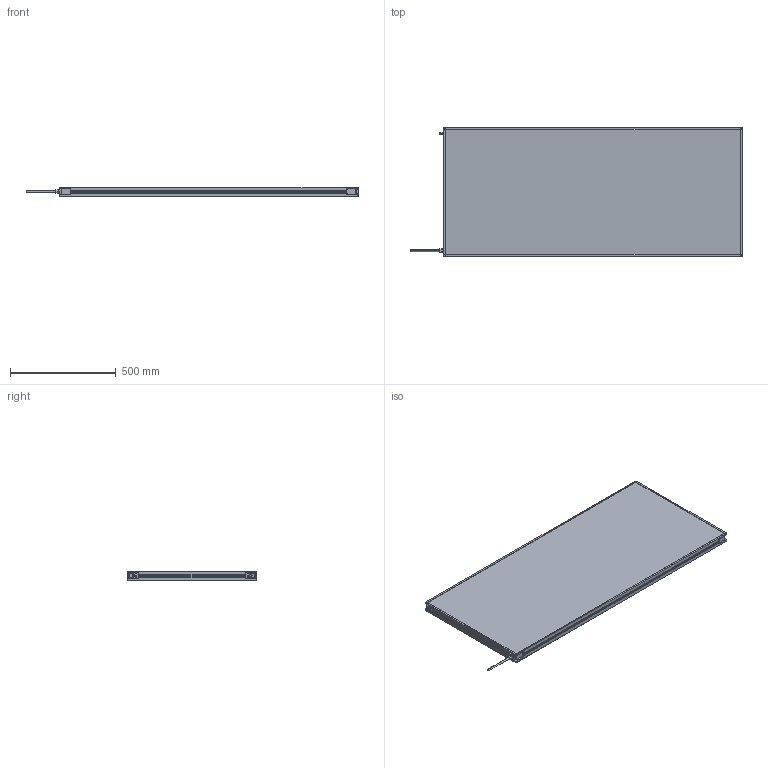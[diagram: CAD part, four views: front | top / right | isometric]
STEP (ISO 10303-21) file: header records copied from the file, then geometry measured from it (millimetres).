
FILE_DESCRIPTION (( 'STEP AP214' ), '1' );
FILE_NAME ('MBACK-xxxx-xxx-M1A2_CLIENT600x1400.STEP', '2022-04-01T11:46:23', ( '' ), ( '' ), 'SwSTEP 2.0', 'SolidWorks 2020', '' );
FILE_SCHEMA (( 'AUTOMOTIVE_DESIGN' ));
Length unit declared in the file: millimetre
Products named in the file (1): MBACK-xxxx-xxx-M1A2_CLIENT600x1400
Bounding box: 1567.4 x 608 x 45.5 mm (x, y, z)
Volume: 35682745.2 mm3; surface area: 1985929.5 mm2
Topology: 1 solids, 1 shells, 470 faces, 1210 edges, 804 vertices
Faces by surface type: plane 265, cylinder 117, bspline 80, cone 8
Entity records: 18046 total; most frequent: CARTESIAN_POINT 6837, ORIENTED_EDGE 2420, DIRECTION 2082, EDGE_CURVE 1210, VERTEX_POINT 804, VECTOR 800, LINE 800, AXIS2_PLACEMENT_3D 641
